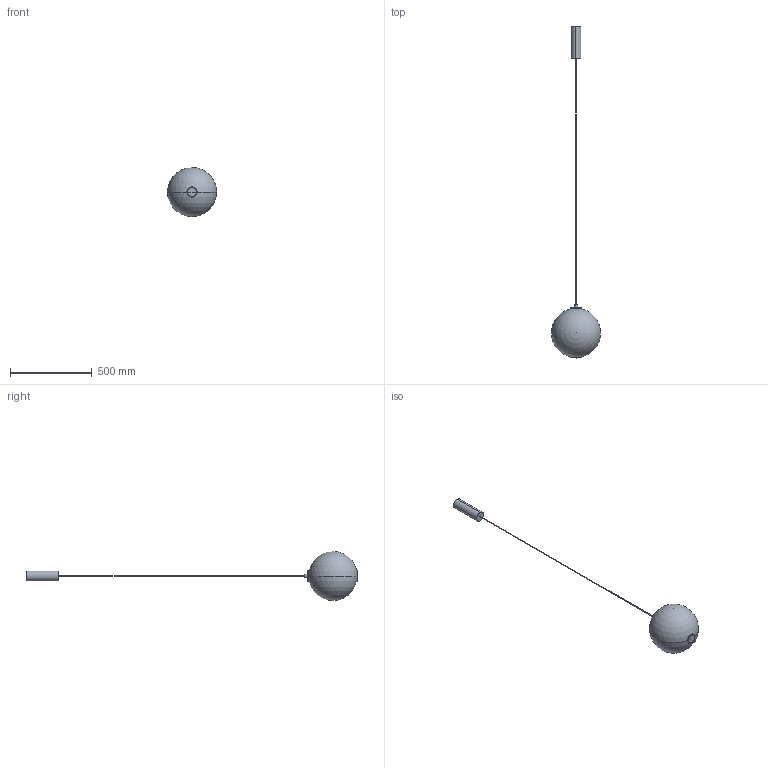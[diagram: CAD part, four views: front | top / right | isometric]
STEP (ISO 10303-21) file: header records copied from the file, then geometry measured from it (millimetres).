
FILE_DESCRIPTION (( 'STEP AP214' ), '1' );
FILE_NAME ('TOULON_C1365-1.STEP', '2026-07-03T09:52:15', ( '' ), ( '' ), 'SwSTEP 2.0', 'SolidWorks 2023', '' );
FILE_SCHEMA (( 'AUTOMOTIVE_DESIGN' ));
Length unit declared in the file: millimetre
Products named in the file (1): TOULON_C1365-1
Bounding box: 300 x 2025 x 300 mm (x, y, z)
Volume: 15576647.1 mm3; surface area: 427348.9 mm2
Topology: 5 solids, 5 shells, 102 faces, 274 edges, 183 vertices
Faces by surface type: cylinder 51, plane 49, sphere 2
Entity records: 3252 total; most frequent: DIRECTION 579, CARTESIAN_POINT 552, ORIENTED_EDGE 538, EDGE_CURVE 269, AXIS2_PLACEMENT_3D 207, VERTEX_POINT 180, VECTOR 165, LINE 165
